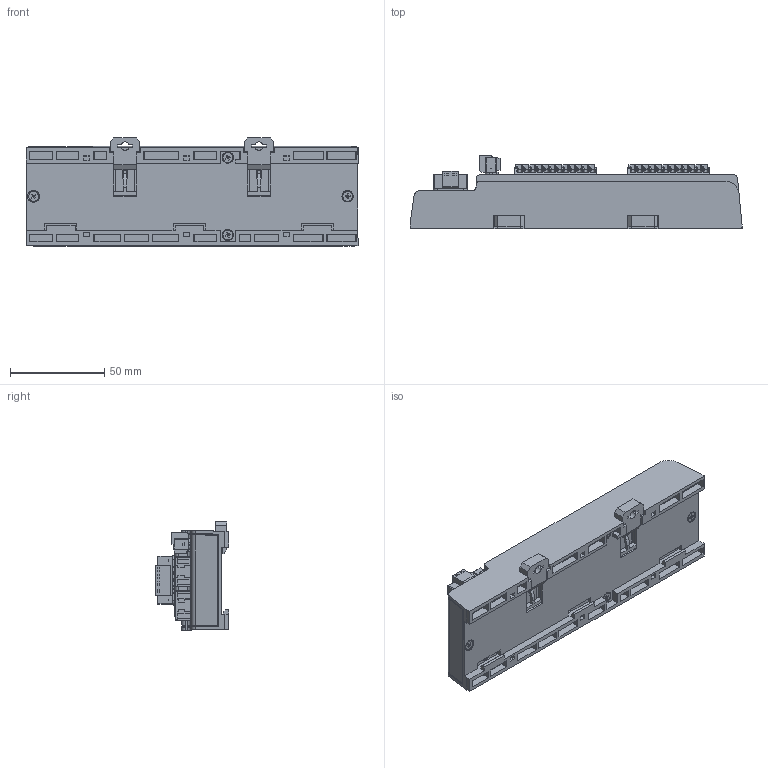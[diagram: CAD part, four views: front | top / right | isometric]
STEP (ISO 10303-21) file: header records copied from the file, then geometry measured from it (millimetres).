
FILE_DESCRIPTION (( 'STEP AP203' ), '1' );
FILE_NAME ('P118-DR-000-04-R00.STEP', '2019-04-29T07:57:13', ( '' ), ( '' ), 'SwSTEP 2.0', 'SolidWorks 2013', '' );
FILE_SCHEMA (( 'CONFIG_CONTROL_DESIGN' ));
Length unit declared in the file: millimetre
Products named in the file (33): 瞪錳薄樓醴喀攪-3-1; 瞪錳蕾樓攪喀攪; MC421-38104; pan cross head_ks(KS 1023 PC- M2.6 x 6-N); 瞪錳薄樓醴喀攪-4-1; ptsa1.5-12-3.5-f; countersunk flat cross head screw_ks(KS 1023 FC- M2.6 x 6-N); 瞪錳蕾樓攪喀攪5P; pxc_1985069_04_PTSA-1-5-12-3-5-F_3D; P118-DR-000-04-R00; countersunk flat cross head screw_ks(KS 1023 FC- M2.6 x 5-N); EtherCAT IO-1-04-1; pxc_1985069_04_PTSA-1-5-12-3-5-F_3D-1; 瞪錳薄樓醴喀攪-1; pan cross head_ks(KS 1023 PC- M2.6 x 5-N); M118-DR-000-06-R00; pxc_1985069_04_PTSA-1-5-12-3-5-F_3D-2; 瞪錳薄樓醴喀攪-2; MC421-38102; EtherCAT IO DIN LEVER-04-1; pxc_1985069_04_PTSA-1-5-12-3-5-F_3D-3; 瞪錳薄樓醴喀攪-3; cheese slotted head_ks_KS 1021 CS - M2.5 x 5-N; EtherCAT IO PCB1-02-1; 瞪錳薄樓醴喀攪-1-1; 瞪錳薄樓醴喀攪-4; cheese slotted head_ks_KS 1021 CS - M1.6 x 3-N; EtherCAT IO PCB2-02-1; 瞪錳薄樓醴喀攪-2-1; 瞪錳薄樓醴喀攪-5; 09455511103_100183220MOD000B
Assembly tree (52 placements, depth 3):
  P118-DR-000-04-R00
    瞪錳蕾樓攪喀攪
      瞪錳薄樓醴喀攪-1
      瞪錳薄樓醴喀攪-2
      瞪錳薄樓醴喀攪-3
      瞪錳薄樓醴喀攪-4
      瞪錳薄樓醴喀攪-5
    pxc_1985069_04_PTSA-1-5-12-3-5-F_3D
      ptsa1.5-12-3.5-f
    pxc_1985069_04_PTSA-1-5-12-3-5-F_3D-1
      ptsa1.5-12-3.5-f
    pxc_1985069_04_PTSA-1-5-12-3-5-F_3D-2
      ptsa1.5-12-3.5-f
    pxc_1985069_04_PTSA-1-5-12-3-5-F_3D-3
      ptsa1.5-12-3.5-f
    瞪錳蕾樓攪喀攪5P
      瞪錳薄樓醴喀攪-1-1
      瞪錳薄樓醴喀攪-2-1
      瞪錳薄樓醴喀攪-3-1
      瞪錳薄樓醴喀攪-4-1  x4
    EtherCAT IO-1-04-1
    M118-DR-000-06-R00
    EtherCAT IO DIN LEVER-04-1  x2
    EtherCAT IO PCB1-02-1
    EtherCAT IO PCB2-02-1
    09455511103_100183220MOD000B  x2
    pan cross head_ks(KS 1023 PC- M2.6 x 6-N)  x2
    countersunk flat cross head screw_ks(KS 1023 FC- M2.6 x 6-N)
    countersunk flat cross head screw_ks(KS 1023 FC- M2.6 x 5-N)  x3
    pan cross head_ks(KS 1023 PC- M2.6 x 5-N)  x2
    MC421-38102
      MC421-38102
      cheese slotted head_ks_KS 1021 CS - M2.5 x 5-N  x2
      cheese slotted head_ks_KS 1021 CS - M1.6 x 3-N  x2
    MC421-38104
      MC421-38104
      cheese slotted head_ks_KS 1021 CS - M2.5 x 5-N  x2
      cheese slotted head_ks_KS 1021 CS - M1.6 x 3-N  x4
Bounding box: 176 x 38.9 x 57.44 mm (x, y, z)
Volume: 105334.4 mm3; surface area: 121023.7 mm2
Topology: 44 solids, 44 shells, 6950 faces, 19070 edges, 12329 vertices
Faces by surface type: plane 4636, cylinder 1781, cone 388, bspline 133, sphere 12
Entity records: 105340 total; most frequent: CARTESIAN_POINT 22761, ORIENTED_EDGE 17076, DIRECTION 15327, EDGE_CURVE 8538, LINE 6381, VECTOR 6381, VERTEX_POINT 5550, AXIS2_PLACEMENT_3D 4473
